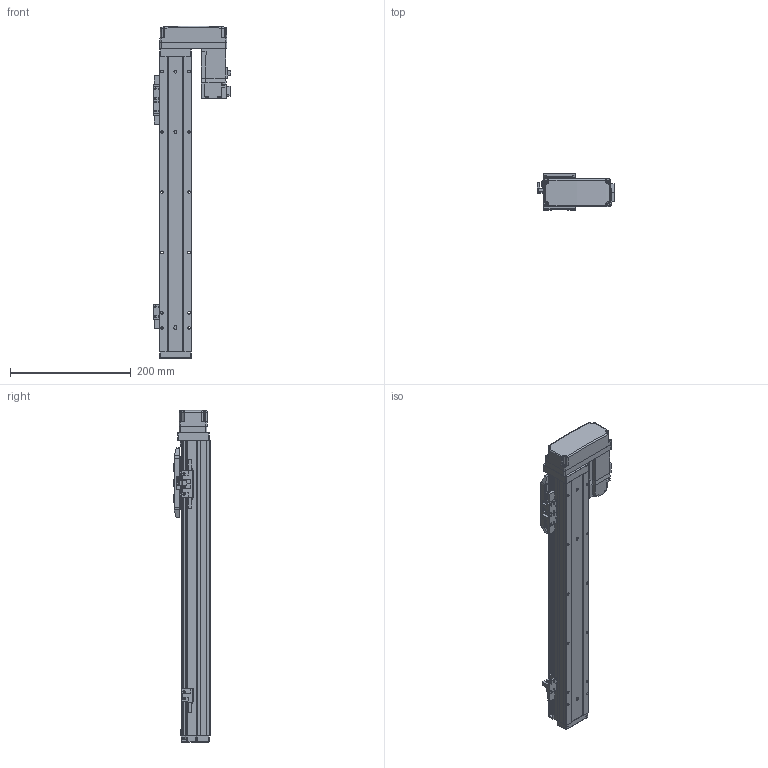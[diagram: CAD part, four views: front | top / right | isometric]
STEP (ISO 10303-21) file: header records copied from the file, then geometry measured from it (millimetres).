
FILE_DESCRIPTION (( 'STEP AP214' ), '1' );
FILE_NAME ('N_GRH5-350-BL-M10.step', '2025-03-14T09:45:28', ( '' ), ( '' ), 'SwSTEP 2.0', 'SolidWorks 2016', '' );
FILE_SCHEMA (( 'AUTOMOTIVE_DESIGN' ));
Length unit declared in the file: millimetre
Products named in the file (5): N_GRH5-BL-008^N_GRH5-350-BL-M10; N_GRH5-GY-004^N_GRH5-350-BL-M10; HF-KP13_100W_Motor^N_GRH5-350-BL-M10; N_GRH5-GY-011^N_GRH5-350-BL-M10; N_GRH5-350-BL-M10
Assembly tree (4 placements, depth 2):
  N_GRH5-350-BL-M10
    N_GRH5-GY-011^N_GRH5-350-BL-M10
    N_GRH5-GY-004^N_GRH5-350-BL-M10
    HF-KP13_100W_Motor^N_GRH5-350-BL-M10
    N_GRH5-BL-008^N_GRH5-350-BL-M10
Bounding box: 128.85 x 60 x 550.5 mm (x, y, z)
Volume: 1178643.9 mm3; surface area: 288041.9 mm2
Topology: 4 solids, 5 shells, 914 faces, 2352 edges, 1497 vertices
Faces by surface type: plane 553, cylinder 306, cone 30, bspline 15, sphere 10
Entity records: 34917 total; most frequent: CARTESIAN_POINT 5601, DIRECTION 4713, ORIENTED_EDGE 4656, EDGE_CURVE 2328, VECTOR 1623, LINE 1623, AXIS2_PLACEMENT_3D 1545, VERTEX_POINT 1495
